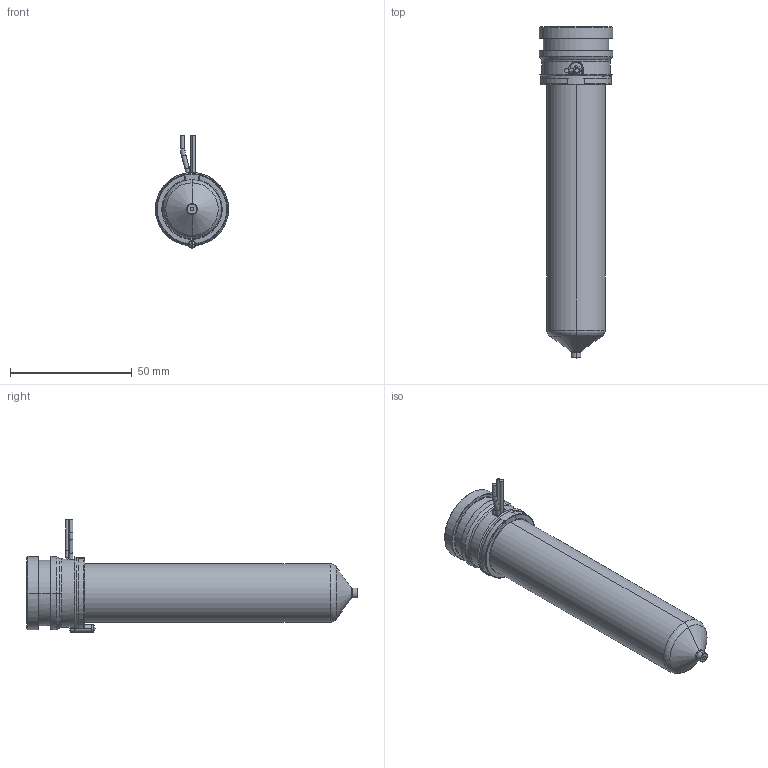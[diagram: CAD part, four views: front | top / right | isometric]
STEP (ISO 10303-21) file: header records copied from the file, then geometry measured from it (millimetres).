
FILE_DESCRIPTION((''),'2;1');
FILE_NAME('MPN-10-29-VP4-116-A','2026-02-05T12:42:48',('UPTIO'),('Thermoplay S.p.A.'),'CREO PARAMETRIC BY PTC INC, 2023494','CREO PARAMETRIC BY PTC INC, 2023494','');
FILE_SCHEMA(('CONFIG_CONTROL_DESIGN','SHAPE_APPEARANCE_LAYERS_GROUPS'));
Length unit declared in the file: millimetre
Products named in the file (1): MPN-10-29-VP4-116-A
Bounding box: 30 x 136.1 x 46 mm (x, y, z)
Volume: 42939.8 mm3; surface area: 43254.6 mm2
Topology: 2 solids, 3 shells, 580 faces, 1543 edges, 961 vertices
Faces by surface type: cylinder 180, plane 153, bspline 98, torus 70, cone 68, sphere 7, extrusion 4
Entity records: 29629 total; most frequent: CARTESIAN_POINT 12715, ORIENTED_EDGE 3074, DIRECTION 2691, EDGE_CURVE 1537, AXIS2_PLACEMENT_3D 1063, VERTEX_POINT 961, EDGE_LOOP 608, CIRCLE 584
